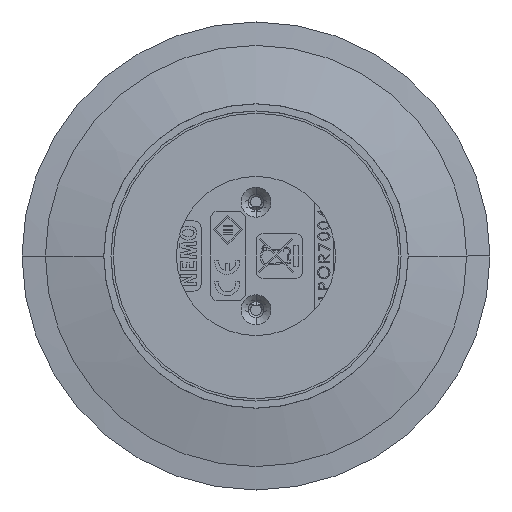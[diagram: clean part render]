
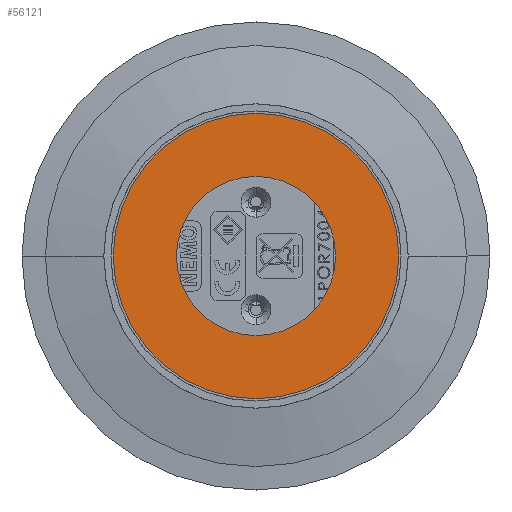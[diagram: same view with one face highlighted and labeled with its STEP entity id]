
A CAD part, front view. The second image highlights one B-rep face of the part: STEP entity #56121.
In plain terms, the highlighted planar face has unit normal (0, -1, 0).
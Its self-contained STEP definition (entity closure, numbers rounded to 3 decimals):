
#3784 = CIRCLE ( 'NONE', #61299, 17. ) ;
#5709 = AXIS2_PLACEMENT_3D ( 'NONE', #48136, #16140, #64160 ) ;
#9767 = ORIENTED_EDGE ( 'NONE', *, *, #67997, .F. ) ;
#13264 = EDGE_LOOP ( 'NONE', ( #9767, #62206 ) ) ;
#13341 = CARTESIAN_POINT ( 'NONE',  ( 0., 0., -17. ) ) ;
#16140 = DIRECTION ( 'NONE',  ( 0., 1., 0. ) ) ;
#16670 = AXIS2_PLACEMENT_3D ( 'NONE', #47662, #69569, #20866 ) ;
#16830 = CARTESIAN_POINT ( 'NONE',  ( 0., 0., -30.5 ) ) ;
#19260 = AXIS2_PLACEMENT_3D ( 'NONE', #69415, #64010, #31499 ) ;
#19647 = CIRCLE ( 'NONE', #16670, 30.5 ) ;
#20866 = DIRECTION ( 'NONE',  ( 0., 0., 1. ) ) ;
#20884 = CARTESIAN_POINT ( 'NONE',  ( 0., 0., 30.5 ) ) ;
#22137 = AXIS2_PLACEMENT_3D ( 'NONE', #65994, #28805, #28358 ) ;
#28358 = DIRECTION ( 'NONE',  ( 0., 0., 1. ) ) ;
#28805 = DIRECTION ( 'NONE',  ( 0., 1., 0. ) ) ;
#30526 = EDGE_LOOP ( 'NONE', ( #48088, #43496 ) ) ;
#31209 = CARTESIAN_POINT ( 'NONE',  ( 0., 0., 17. ) ) ;
#31499 = DIRECTION ( 'NONE',  ( 0., 0., -1. ) ) ;
#35997 = EDGE_CURVE ( 'NONE', #62292, #48597, #57385, .T. ) ;
#36914 = VERTEX_POINT ( 'NONE', #31209 ) ;
#39595 = PLANE ( 'NONE',  #22137 ) ;
#41517 = DIRECTION ( 'NONE',  ( 0., 0., -1. ) ) ;
#43496 = ORIENTED_EDGE ( 'NONE', *, *, #35997, .F. ) ;
#47662 = CARTESIAN_POINT ( 'NONE',  ( 0., 0., 0. ) ) ;
#48088 = ORIENTED_EDGE ( 'NONE', *, *, #55916, .F. ) ;
#48136 = CARTESIAN_POINT ( 'NONE',  ( 0., 0., 0. ) ) ;
#48597 = VERTEX_POINT ( 'NONE', #16830 ) ;
#50756 = FACE_OUTER_BOUND ( 'NONE', #30526, .T. ) ;
#54655 = CIRCLE ( 'NONE', #19260, 17. ) ;
#55759 = VERTEX_POINT ( 'NONE', #13341 ) ;
#55916 = EDGE_CURVE ( 'NONE', #48597, #62292, #19647, .T. ) ;
#56121 = ADVANCED_FACE ( 'NONE', ( #67660, #50756 ), #39595, .F. ) ;
#57095 = DIRECTION ( 'NONE',  ( 0., -1., 0. ) ) ;
#57385 = CIRCLE ( 'NONE', #5709, 30.5 ) ;
#61299 = AXIS2_PLACEMENT_3D ( 'NONE', #62738, #57095, #41517 ) ;
#62206 = ORIENTED_EDGE ( 'NONE', *, *, #63365, .F. ) ;
#62292 = VERTEX_POINT ( 'NONE', #20884 ) ;
#62738 = CARTESIAN_POINT ( 'NONE',  ( 0., 0., 0. ) ) ;
#63365 = EDGE_CURVE ( 'NONE', #36914, #55759, #54655, .T. ) ;
#64010 = DIRECTION ( 'NONE',  ( 0., -1., 0. ) ) ;
#64160 = DIRECTION ( 'NONE',  ( 0., 0., 1. ) ) ;
#65994 = CARTESIAN_POINT ( 'NONE',  ( 0., 0., 0. ) ) ;
#67660 = FACE_BOUND ( 'NONE', #13264, .T. ) ;
#67997 = EDGE_CURVE ( 'NONE', #55759, #36914, #3784, .T. ) ;
#69415 = CARTESIAN_POINT ( 'NONE',  ( 0., 0., 0. ) ) ;
#69569 = DIRECTION ( 'NONE',  ( 0., 1., 0. ) ) ;
